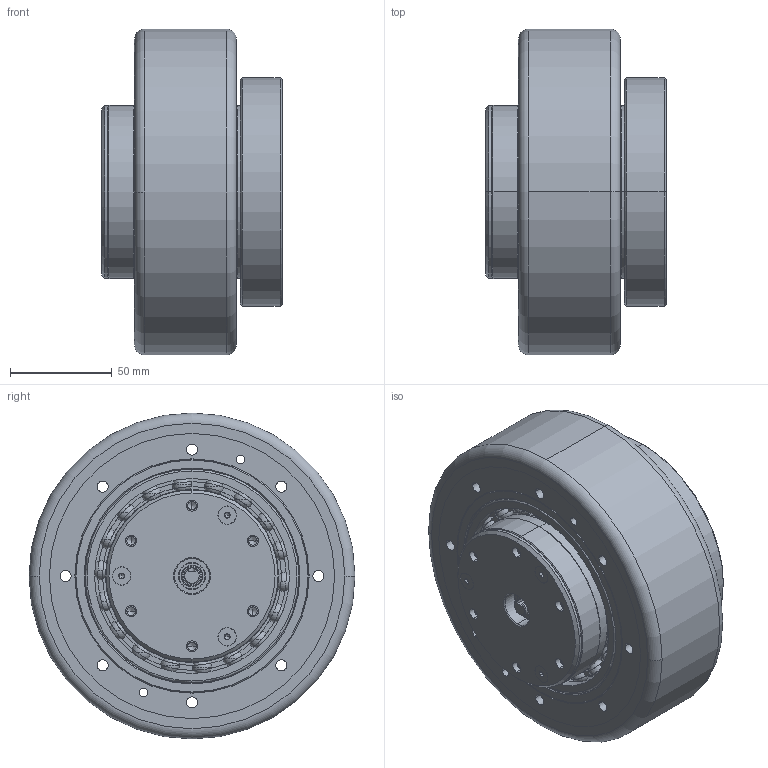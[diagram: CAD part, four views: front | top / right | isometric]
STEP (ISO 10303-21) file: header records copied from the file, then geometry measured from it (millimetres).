
FILE_DESCRIPTION (( 'STEP AP214' ), '1' );
FILE_NAME ('TYC 160 19Öá.STEP', '2022-04-20T05:27:28', ( '' ), ( '' ), 'SwSTEP 2.0', 'SolidWorks 2018', '' );
FILE_SCHEMA (( 'AUTOMOTIVE_DESIGN' ));
Length unit declared in the file: millimetre
Products named in the file (1): TYC 160 19粣
Bounding box: 88.5 x 160 x 160 mm (x, y, z)
Volume: 1293759.6 mm3; surface area: 240137.6 mm2
Topology: 6 solids, 21 shells, 982 faces, 2646 edges, 1704 vertices
Faces by surface type: cylinder 368, plane 216, cone 175, sphere 109, torus 94, bspline 20
Entity records: 38765 total; most frequent: CARTESIAN_POINT 14835, DIRECTION 5083, ORIENTED_EDGE 4876, EDGE_CURVE 2438, AXIS2_PLACEMENT_3D 2213, VERTEX_POINT 1608, CIRCLE 1250, EDGE_LOOP 1234
